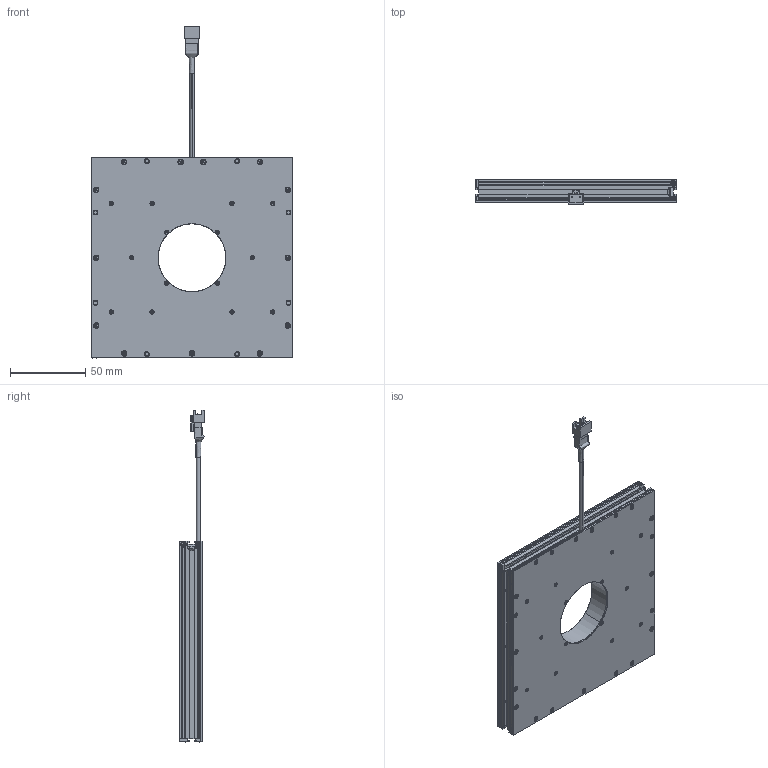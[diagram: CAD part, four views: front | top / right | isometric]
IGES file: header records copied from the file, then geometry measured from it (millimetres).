
Start section: SolidWorks IGES file using analytic representation for surfaces
Global section: file name: C:\Users\user\Downloads\TEMP_STEP\VDFHP-120120_Drawing_L1198A-A00100.IGS; native system: SolidWorks 2018; preprocessor: SolidWorks 2018; author: user; date: 231221.090539; units: millimetre
Bounding box: 133 x 16.55 x 220.19 mm (x, y, z)
Surface area: 75962.1 mm2 (no closed solid volume)
Topology: 0 solids, 0 shells, 799 faces, 9465 edges, 9465 vertices
Faces by surface type: bspline 537, revolution 262
